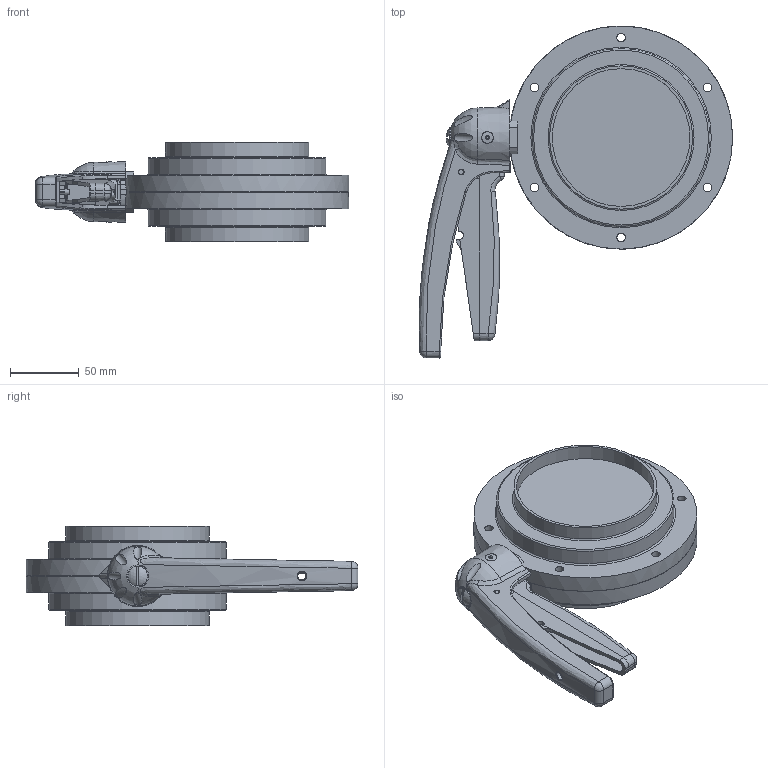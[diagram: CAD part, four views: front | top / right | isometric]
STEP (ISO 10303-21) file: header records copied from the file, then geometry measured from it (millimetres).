
FILE_DESCRIPTION(/* description */ ('VVF VALV.FARF.DN100(104X2)S/S 316EPD LEVA 5POS.'),/* implementation_level */ '2;1');
FILE_NAME(/* name */ 'C:\_DED_PWS\GIOR-G\DB\B\EBA\BEBABH100BEAA-00^SAGOMA.step',/* time_stamp */ '2021-03-23T09:40:56+01:00',/* author */ (''),/* organization */ (''),/* preprocessor_version */ 'ST-DEVELOPER v18',/* originating_system */ 'Autodesk Inventor 2020',/* authorisation */ '');
FILE_SCHEMA (('CONFIG_CONTROL_DESIGN'));
Length unit declared in the file: millimetre
Products named in the file (3): BEBABH100BEAA; MEZZO-COR-DN100-SALD; Maniglia-5-posizioni-nuova-versione finale 01-2008- 25 - - 65
Assembly tree (3 placements, depth 2):
  BEBABH100BEAA
    MEZZO-COR-DN100-SALD  x2
    Maniglia-5-posizioni-nuova-versione finale 01-2008- 25 - - 65
Bounding box: 227.46 x 241 x 72 mm (x, y, z)
Volume: 965825.9 mm3; surface area: 177696.7 mm2
Topology: 3 solids, 4 shells, 446 faces, 1197 edges, 776 vertices
Faces by surface type: plane 198, cylinder 106, bspline 81, cone 28, sphere 18, torus 15
Full cylindrical faces by diameter (mm): 4 x3, 6 x2, 6.2 x12, 6.5 x1, 13 x1, 14.5 x3, 100 x2, 104 x2, 129 x2, 162 x2
Entity records: 22638 total; most frequent: CARTESIAN_POINT 12062, ORIENTED_EDGE 2264, DIRECTION 1926, EDGE_CURVE 1132, VERTEX_POINT 729, AXIS2_PLACEMENT_3D 696, LINE 534, VECTOR 534
